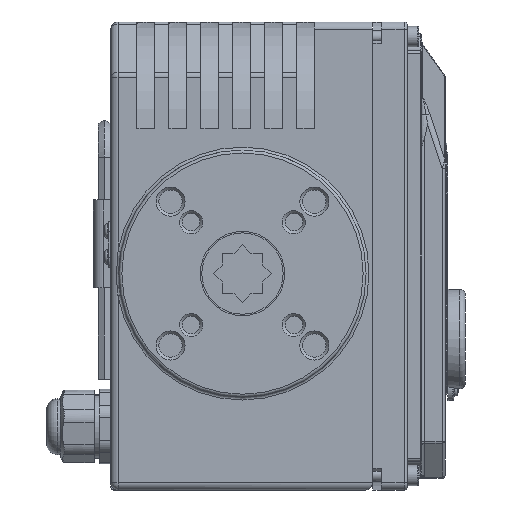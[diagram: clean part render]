
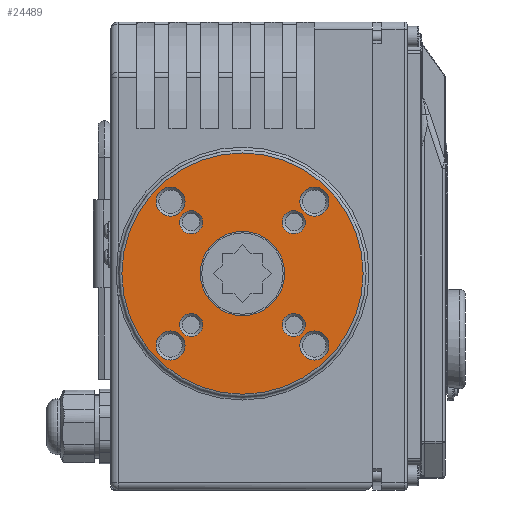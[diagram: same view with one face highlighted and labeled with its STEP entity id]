
A CAD part, front view. The second image highlights one B-rep face of the part: STEP entity #24489.
In plain terms, the highlighted planar face has unit normal (0, -1, 0).
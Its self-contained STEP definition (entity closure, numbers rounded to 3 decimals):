
#771=PLANE('',#26225);
#5049=FACE_BOUND('',#7178,.T.);
#5050=FACE_BOUND('',#7179,.T.);
#5051=FACE_BOUND('',#7180,.T.);
#5052=FACE_BOUND('',#7181,.T.);
#5053=FACE_BOUND('',#7182,.T.);
#5054=FACE_BOUND('',#7183,.T.);
#5055=FACE_BOUND('',#7184,.T.);
#5056=FACE_BOUND('',#7185,.T.);
#5057=FACE_BOUND('',#7186,.T.);
#5811=FACE_OUTER_BOUND('',#7177,.T.);
#7177=EDGE_LOOP('',(#17572));
#7178=EDGE_LOOP('',(#17573));
#7179=EDGE_LOOP('',(#17574));
#7180=EDGE_LOOP('',(#17575));
#7181=EDGE_LOOP('',(#17576));
#7182=EDGE_LOOP('',(#17577));
#7183=EDGE_LOOP('',(#17578));
#7184=EDGE_LOOP('',(#17579));
#7185=EDGE_LOOP('',(#17580));
#7186=EDGE_LOOP('',(#17581));
#8601=CIRCLE('',#26223,4.);
#8603=CIRCLE('',#26226,41.5);
#8604=CIRCLE('',#26227,5.);
#8605=CIRCLE('',#26228,4.);
#8606=CIRCLE('',#26229,4.);
#8607=CIRCLE('',#26230,5.);
#8608=CIRCLE('',#26231,14.5);
#8609=CIRCLE('',#26232,4.);
#8610=CIRCLE('',#26233,5.);
#8611=CIRCLE('',#26234,5.);
#10437=VERTEX_POINT('',#36965);
#10439=VERTEX_POINT('',#36971);
#10440=VERTEX_POINT('',#36973);
#10441=VERTEX_POINT('',#36975);
#10442=VERTEX_POINT('',#36977);
#10443=VERTEX_POINT('',#36979);
#10444=VERTEX_POINT('',#36981);
#10445=VERTEX_POINT('',#36983);
#10446=VERTEX_POINT('',#36985);
#10447=VERTEX_POINT('',#36987);
#13102=EDGE_CURVE('',#10437,#10437,#8601,.T.);
#13105=EDGE_CURVE('',#10439,#10439,#8603,.T.);
#13106=EDGE_CURVE('',#10440,#10440,#8604,.T.);
#13107=EDGE_CURVE('',#10441,#10441,#8605,.T.);
#13108=EDGE_CURVE('',#10442,#10442,#8606,.T.);
#13109=EDGE_CURVE('',#10443,#10443,#8607,.T.);
#13110=EDGE_CURVE('',#10444,#10444,#8608,.T.);
#13111=EDGE_CURVE('',#10445,#10445,#8609,.T.);
#13112=EDGE_CURVE('',#10446,#10446,#8610,.T.);
#13113=EDGE_CURVE('',#10447,#10447,#8611,.T.);
#17572=ORIENTED_EDGE('',*,*,#13105,.F.);
#17573=ORIENTED_EDGE('',*,*,#13106,.F.);
#17574=ORIENTED_EDGE('',*,*,#13107,.F.);
#17575=ORIENTED_EDGE('',*,*,#13108,.F.);
#17576=ORIENTED_EDGE('',*,*,#13109,.F.);
#17577=ORIENTED_EDGE('',*,*,#13110,.T.);
#17578=ORIENTED_EDGE('',*,*,#13111,.F.);
#17579=ORIENTED_EDGE('',*,*,#13112,.F.);
#17580=ORIENTED_EDGE('',*,*,#13113,.F.);
#17581=ORIENTED_EDGE('',*,*,#13102,.F.);
#24489=ADVANCED_FACE('',(#5811,#5049,#5050,#5051,#5052,#5053,#5054,#5055,
#5056,#5057),#771,.T.);
#26223=AXIS2_PLACEMENT_3D('',#36966,#29265,#29266);
#26225=AXIS2_PLACEMENT_3D('',#36970,#29270,#29271);
#26226=AXIS2_PLACEMENT_3D('',#36972,#29272,#29273);
#26227=AXIS2_PLACEMENT_3D('',#36974,#29274,#29275);
#26228=AXIS2_PLACEMENT_3D('',#36976,#29276,#29277);
#26229=AXIS2_PLACEMENT_3D('',#36978,#29278,#29279);
#26230=AXIS2_PLACEMENT_3D('',#36980,#29280,#29281);
#26231=AXIS2_PLACEMENT_3D('',#36982,#29282,#29283);
#26232=AXIS2_PLACEMENT_3D('',#36984,#29284,#29285);
#26233=AXIS2_PLACEMENT_3D('',#36986,#29286,#29287);
#26234=AXIS2_PLACEMENT_3D('',#36988,#29288,#29289);
#29265=DIRECTION('center_axis',(0.,-1.,0.));
#29266=DIRECTION('ref_axis',(-1.,0.,0.));
#29270=DIRECTION('center_axis',(0.,-1.,0.));
#29271=DIRECTION('ref_axis',(0.,0.,
-1.));
#29272=DIRECTION('center_axis',(0.,1.,0.));
#29273=DIRECTION('ref_axis',(-1.,0.,0.));
#29274=DIRECTION('center_axis',(0.,-1.,0.));
#29275=DIRECTION('ref_axis',(-1.,0.,0.));
#29276=DIRECTION('center_axis',(0.,-1.,0.));
#29277=DIRECTION('ref_axis',(-1.,0.,0.));
#29278=DIRECTION('center_axis',(0.,-1.,0.));
#29279=DIRECTION('ref_axis',(-1.,0.,0.));
#29280=DIRECTION('center_axis',(0.,-1.,0.));
#29281=DIRECTION('ref_axis',(-1.,0.,0.));
#29282=DIRECTION('center_axis',(0.,1.,0.));
#29283=DIRECTION('ref_axis',(-1.,0.,0.));
#29284=DIRECTION('center_axis',(0.,-1.,0.));
#29285=DIRECTION('ref_axis',(-1.,0.,0.));
#29286=DIRECTION('center_axis',(0.,-1.,0.));
#29287=DIRECTION('ref_axis',(-1.,0.,0.));
#29288=DIRECTION('center_axis',(0.,-1.,0.));
#29289=DIRECTION('ref_axis',(-1.,0.,0.));
#36965=CARTESIAN_POINT('',(21.678,-42.5,17.678));
#36966=CARTESIAN_POINT('Origin',(17.678,-42.5,17.678));
#36970=CARTESIAN_POINT('Origin',(0.,-42.5,0.));
#36971=CARTESIAN_POINT('',(0.,-42.5,41.5));
#36972=CARTESIAN_POINT('Origin',(0.,-42.5,0.));
#36973=CARTESIAN_POINT('',(29.749,-42.5,24.749));
#36974=CARTESIAN_POINT('Origin',(24.749,-42.5,24.749));
#36975=CARTESIAN_POINT('',(-13.678,-42.5,17.678));
#36976=CARTESIAN_POINT('Origin',(-17.678,-42.5,17.678));
#36977=CARTESIAN_POINT('',(-13.678,-42.5,-17.678));
#36978=CARTESIAN_POINT('Origin',(-17.678,-42.5,-17.678));
#36979=CARTESIAN_POINT('',(29.749,-42.5,-24.749));
#36980=CARTESIAN_POINT('Origin',(24.749,-42.5,-24.749));
#36981=CARTESIAN_POINT('',(14.5,-42.5,0.));
#36982=CARTESIAN_POINT('Origin',(0.,-42.5,0.));
#36983=CARTESIAN_POINT('',(21.678,-42.5,-17.678));
#36984=CARTESIAN_POINT('Origin',(17.678,-42.5,-17.678));
#36985=CARTESIAN_POINT('',(-19.749,-42.5,-24.749));
#36986=CARTESIAN_POINT('Origin',(-24.749,-42.5,-24.749));
#36987=CARTESIAN_POINT('',(-19.749,-42.5,24.749));
#36988=CARTESIAN_POINT('Origin',(-24.749,-42.5,24.749));
